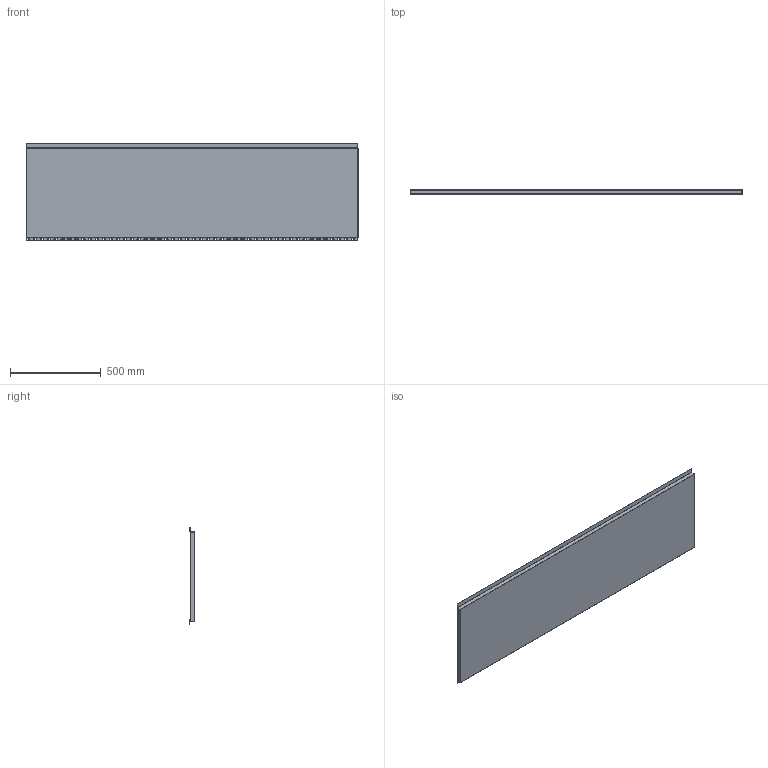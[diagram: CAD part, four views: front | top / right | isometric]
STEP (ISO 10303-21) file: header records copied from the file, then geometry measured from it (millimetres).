
FILE_DESCRIPTION(/* description */ (''),/* implementation_level */ '2;1');
FILE_NAME(/* name */ 'C:\Users\Utilisateur\Mac Metal\Site de communication - Documents\Ingénierie\1. Dessins techniques produits Mac\CAD _ REVIT Profiles drawing - MAC\Polymac\Polymac 20 x 72\SPPG24.20X72.stp',/* time_stamp */ '2023-02-08T10:46:41-05:00',/* author */ ('Utilisateur'),/* organization */ (''),/* preprocessor_version */ 'ST-DEVELOPER v18.1',/* originating_system */ 'Autodesk Inventor 2022',/* authorisation */ '');
FILE_SCHEMA (('AUTOMOTIVE_DESIGN { 1 0 10303 214 3 1 1 }'));
Length unit declared in the file: inch
Products named in the file (1): SPPG24.20X72
Bounding box: 1828.8 x 25.4 x 537.15 mm (x, y, z)
Volume: 20620663.8 mm3; surface area: 4158908.8 mm2
Topology: 2 solids, 2 shells, 246 faces, 718 edges, 474 vertices
Faces by surface type: plane 131, cylinder 115
Entity records: 8414 total; most frequent: DIRECTION 1442, CARTESIAN_POINT 1439, ORIENTED_EDGE 1436, EDGE_CURVE 718, LINE 488, VECTOR 488, AXIS2_PLACEMENT_3D 477, VERTEX_POINT 474
